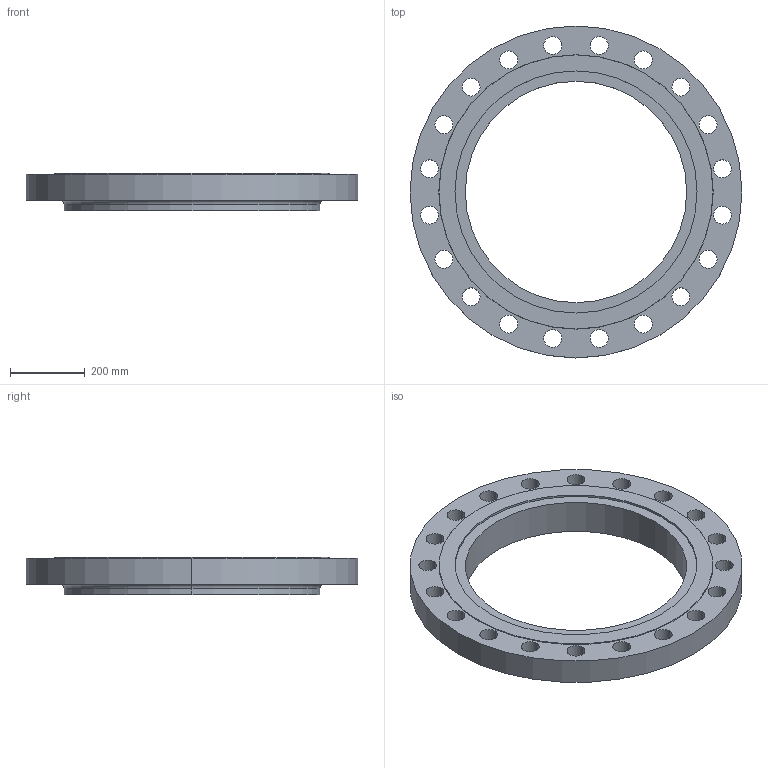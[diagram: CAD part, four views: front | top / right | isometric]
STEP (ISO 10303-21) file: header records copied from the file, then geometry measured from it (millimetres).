
FILE_DESCRIPTION (( 'STEP AP214' ), '1' );
FILE_NAME ('PN40 DN600 Type 13 - Type G Face.STEP', '2018-12-28T22:57:22', ( '' ), ( '' ), 'SwSTEP 2.0', 'SolidWorks 2019', '' );
FILE_SCHEMA (( 'AUTOMOTIVE_DESIGN' ));
Length unit declared in the file: millimetre
Products named in the file (1): PN40 DN600 Type 13 - Type G Face
Bounding box: 890 x 890 x 100 mm (x, y, z)
Volume: 24316693.5 mm3; surface area: 1265970.4 mm2
Topology: 1 solids, 1 shells, 57 faces, 154 edges, 102 vertices
Faces by surface type: cylinder 48, plane 5, torus 2, cone 2
Entity records: 1974 total; most frequent: DIRECTION 374, CARTESIAN_POINT 314, ORIENTED_EDGE 308, AXIS2_PLACEMENT_3D 162, EDGE_CURVE 154, CIRCLE 104, EDGE_LOOP 102, VERTEX_POINT 102
